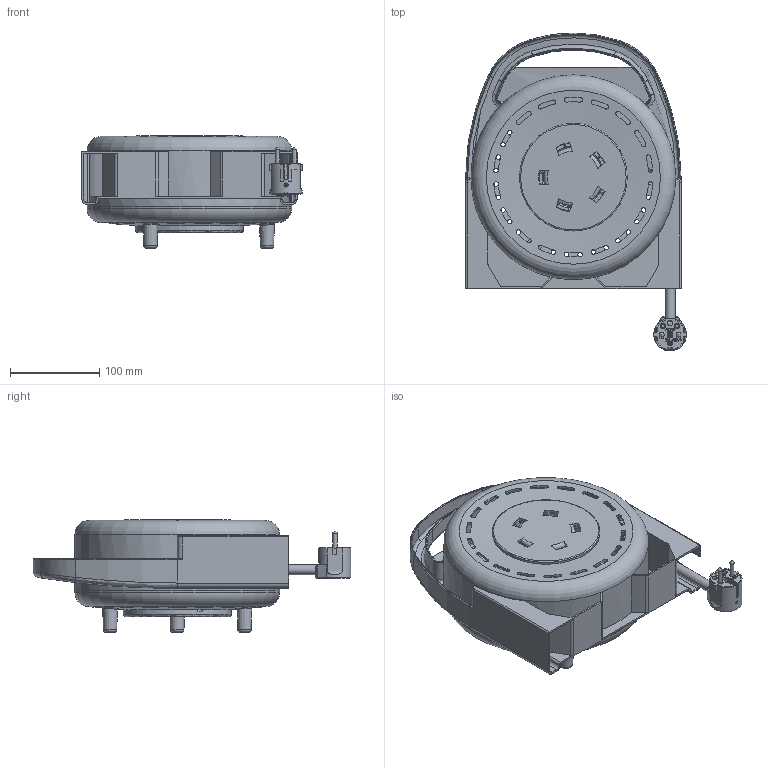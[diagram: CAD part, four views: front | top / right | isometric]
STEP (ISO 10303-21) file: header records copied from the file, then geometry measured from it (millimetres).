
FILE_DESCRIPTION(/* description */ (''),/* implementation_level */ '2;1');
FILE_NAME(/* name */ '4008844.stp',/* time_stamp */ '2019-10-09T08:17:10+02:00',/* author */ (''),/* organization */ (''),/* preprocessor_version */ 'ST-DEVELOPER v16.7',/* originating_system */ 'SIEMENS PLM Software NX 1884',/* authorisation */ '');
FILE_SCHEMA (('AUTOMOTIVE_DESIGN { 1 0 10303 214 3 1 1 1 }'));
Length unit declared in the file: millimetre
Products named in the file (1): BSOM4FD0E1C33ibt
Bounding box: 247.9 x 357.12 x 126.2 mm (x, y, z)
Volume: 651566.3 mm3; surface area: 562183.1 mm2
Topology: 24 solids, 24 shells, 3010 faces, 8348 edges, 5520 vertices
Faces by surface type: plane 1571, cylinder 671, extrusion 413, torus 147, cone 106, bspline 89, sphere 13
Full cylindrical faces by diameter (mm): 0.2 x1, 0.4 x1, 2 x1, 2.25 x1, 2.4 x4, 2.5 x11, 2.7 x1, 2.9 x2, 3 x6, 3.1 x3, 3.2 x2, 3.5 x4, 3.519 x1, 3.8 x4, 4 x1, 4.7 x1, 4.8 x6, 4.85 x4, 5 x2, 5.1 x1, 5.5 x1, 5.6 x9, 5.9 x3, 6 x2, 6.9 x4, 10 x1, 11.2 x1, 14.2 x1, 36.5 x1, 38.5 x4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
Entity records: 110149 total; most frequent: CARTESIAN_POINT 37081, ORIENTED_EDGE 16170, DIRECTION 12982, EDGE_CURVE 8085, VERTEX_POINT 5439, VECTOR 4518, AXIS2_PLACEMENT_3D 4232, LINE 4105
